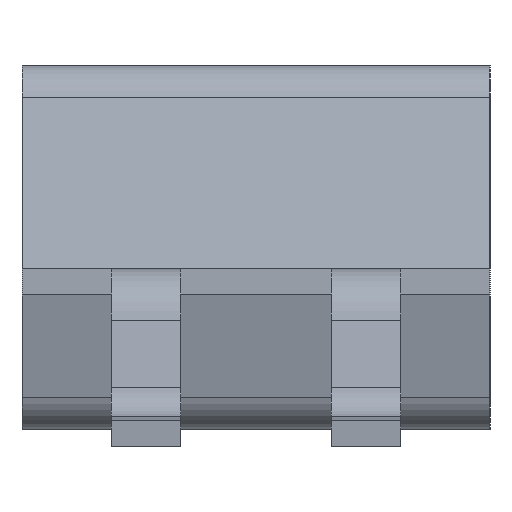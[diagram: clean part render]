
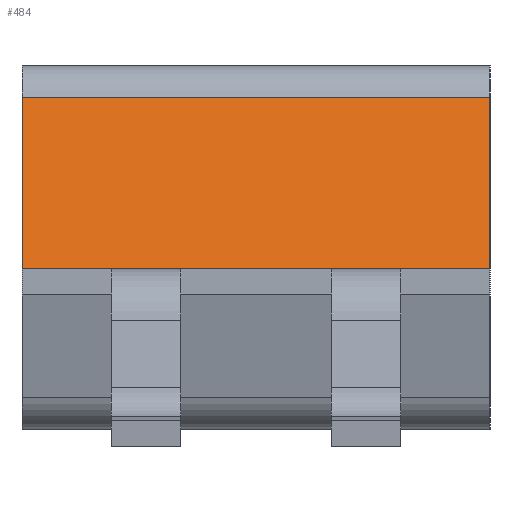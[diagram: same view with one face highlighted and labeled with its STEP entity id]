
A CAD part, left-side view. The second image highlights one B-rep face of the part: STEP entity #484.
In plain terms, the highlighted planar face has unit normal (-0.966, 0, 0.259) as drawn and (-0.966, 0.259, 0) by its records, which use the part's own axes.
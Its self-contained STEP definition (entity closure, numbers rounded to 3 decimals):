
#99=DIRECTION('',(0.259,0.966,0.));
#100=VECTOR('',#99,1.025);
#101=CARTESIAN_POINT('',(-2.4,0.,1.35));
#102=LINE('',#101,#100);
#195=DIRECTION('',(0.,0.,1.));
#196=VECTOR('',#195,2.7);
#197=CARTESIAN_POINT('',(-2.135,0.99,-1.35));
#198=LINE('',#197,#196);
#202=DIRECTION('',(0.,0.,1.));
#203=VECTOR('',#202,2.7);
#204=CARTESIAN_POINT('',(-2.4,0.,-1.35));
#205=LINE('',#204,#203);
#209=DIRECTION('',(0.259,0.966,0.));
#210=VECTOR('',#209,1.025);
#211=CARTESIAN_POINT('',(-2.4,0.,-1.35));
#212=LINE('',#211,#210);
#297=CARTESIAN_POINT('',(-2.4,0.,-1.35));
#298=CARTESIAN_POINT('',(-2.4,0.,1.35));
#299=VERTEX_POINT('',#297);
#300=VERTEX_POINT('',#298);
#318=CARTESIAN_POINT('',(-2.135,0.99,1.35));
#320=VERTEX_POINT('',#318);
#321=CARTESIAN_POINT('',(-2.135,0.99,-1.35));
#322=VERTEX_POINT('',#321);
#472=CARTESIAN_POINT('',(-2.4,0.,-1.35));
#473=DIRECTION('',(-0.966,0.259,0.));
#474=DIRECTION('',(0.,0.,1.));
#475=AXIS2_PLACEMENT_3D('',#472,#473,#474);
#476=PLANE('',#475);
#477=ORIENTED_EDGE('',*,*,#465,.T.);
#478=ORIENTED_EDGE('',*,*,#393,.F.);
#480=ORIENTED_EDGE('',*,*,#479,.F.);
#481=ORIENTED_EDGE('',*,*,#427,.T.);
#482=EDGE_LOOP('',(#477,#478,#480,#481));
#483=FACE_OUTER_BOUND('',#482,.F.);
#484=ADVANCED_FACE('',(#483),#476,.T.);
#393=EDGE_CURVE('',#300,#320,#102,.T.);
#427=EDGE_CURVE('',#299,#322,#212,.T.);
#465=EDGE_CURVE('',#322,#320,#198,.T.);
#479=EDGE_CURVE('',#299,#300,#205,.T.);
